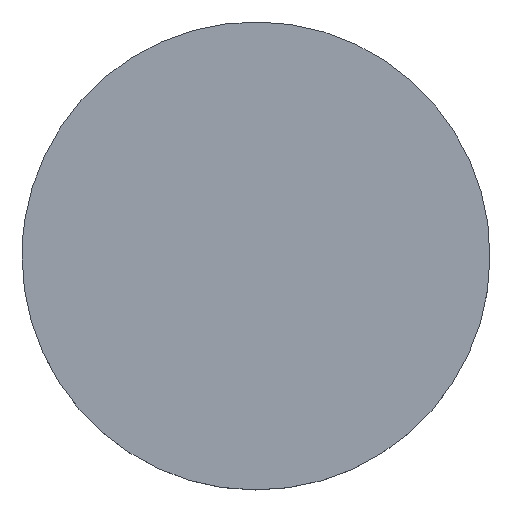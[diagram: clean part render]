
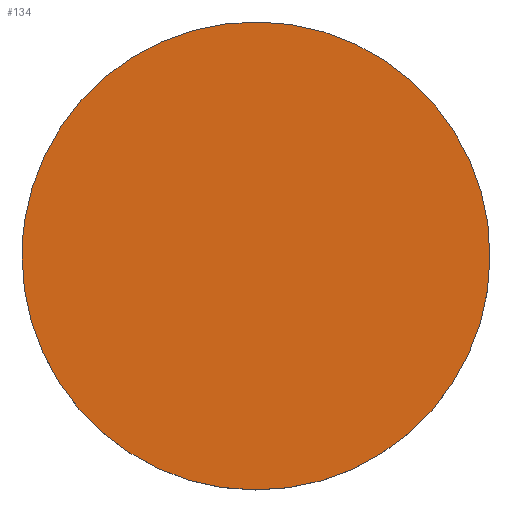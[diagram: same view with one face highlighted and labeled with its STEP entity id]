
A CAD part, top view. The second image highlights one B-rep face of the part: STEP entity #134.
In plain terms, the highlighted planar face has unit normal (0, 0, 1).
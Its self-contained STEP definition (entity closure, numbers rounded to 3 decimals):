
#85=CARTESIAN_POINT('',(-7.15,22.85,26.5));
#86=DIRECTION('',(0.0,0.0,1.0));
#87=DIRECTION('',(1.0,0.0,0.0));
#88=AXIS2_PLACEMENT_3D('',#85,#86,#87);
#89=PLANE('',#88);
#90=CARTESIAN_POINT('',(-6.5,30.0,26.5));
#91=VERTEX_POINT('',#90);
#92=CARTESIAN_POINT('',(-6.5,30.0,26.5));
#93=CARTESIAN_POINT('',(-6.5,28.839,26.5));
#94=CARTESIAN_POINT('',(-6.21,27.756,26.5));
#95=CARTESIAN_POINT('',(-5.629,26.75,26.5));
#96=CARTESIAN_POINT('',(-5.049,25.744,26.5));
#97=CARTESIAN_POINT('',(-4.256,24.951,26.5));
#98=CARTESIAN_POINT('',(-3.25,24.371,26.5));
#99=CARTESIAN_POINT('',(-2.244,23.79,26.5));
#100=CARTESIAN_POINT('',(-1.161,23.5,26.5));
#101=CARTESIAN_POINT('',(0.,23.5,26.5));
#102=CARTESIAN_POINT('',(1.161,23.5,26.5));
#103=CARTESIAN_POINT('',(2.244,23.79,26.5));
#104=CARTESIAN_POINT('',(3.25,24.371,26.5));
#105=CARTESIAN_POINT('',(4.256,24.951,26.5));
#106=CARTESIAN_POINT('',(5.049,25.744,26.5));
#107=CARTESIAN_POINT('',(5.629,26.75,26.5));
#108=CARTESIAN_POINT('',(6.21,27.756,26.5));
#109=CARTESIAN_POINT('',(6.5,28.839,26.5));
#110=CARTESIAN_POINT('',(6.5,30.0,26.5));
#111=CARTESIAN_POINT('',(6.5,31.161,26.5));
#112=CARTESIAN_POINT('',(6.21,32.244,26.5));
#113=CARTESIAN_POINT('',(5.629,33.25,26.5));
#114=CARTESIAN_POINT('',(5.049,34.256,26.5));
#115=CARTESIAN_POINT('',(4.256,35.049,26.5));
#116=CARTESIAN_POINT('',(3.25,35.629,26.5));
#117=CARTESIAN_POINT('',(2.244,36.21,26.5));
#118=CARTESIAN_POINT('',(1.161,36.5,26.5));
#119=CARTESIAN_POINT('',(0.,36.5,26.5));
#120=CARTESIAN_POINT('',(-1.161,36.5,26.5));
#121=CARTESIAN_POINT('',(-2.244,36.21,26.5));
#122=CARTESIAN_POINT('',(-3.25,35.629,26.5));
#123=CARTESIAN_POINT('',(-4.256,35.049,26.5));
#124=CARTESIAN_POINT('',(-5.049,34.256,26.5));
#125=CARTESIAN_POINT('',(-5.629,33.25,26.5));
#126=CARTESIAN_POINT('',(-6.21,32.244,26.5));
#127=CARTESIAN_POINT('',(-6.5,31.161,26.5));
#128=CARTESIAN_POINT('',(-6.5,30.0,26.5));
#129=B_SPLINE_CURVE_WITH_KNOTS('',3,(#92,#93,#94,#95,#96,#97,#98,#99,#100,#101,#102,#103,#104,#105,#106,#107,#108,#109,#110,#111,#112,#113,#114,#115,#116,#117,#118,#119,#120,#121,#122,#123,#124,#125,#126,#127,#128),.UNSPECIFIED.,.T.,.U.,(4,3,3,3,3,3,3,3,3,3,3,3,4),(0.0,0.083,0.167,0.25,0.333,0.417,0.5,0.583,0.667,0.75,0.833,0.917,1.0),.UNSPECIFIED.);
#130=EDGE_CURVE('',#91,#91,#129,.T.);
#131=ORIENTED_EDGE('',*,*,#130,.T.);
#132=EDGE_LOOP('',(#131));
#133=FACE_OUTER_BOUND('',#132,.T.);
#134=ADVANCED_FACE('',(#133),#89,.T.);
